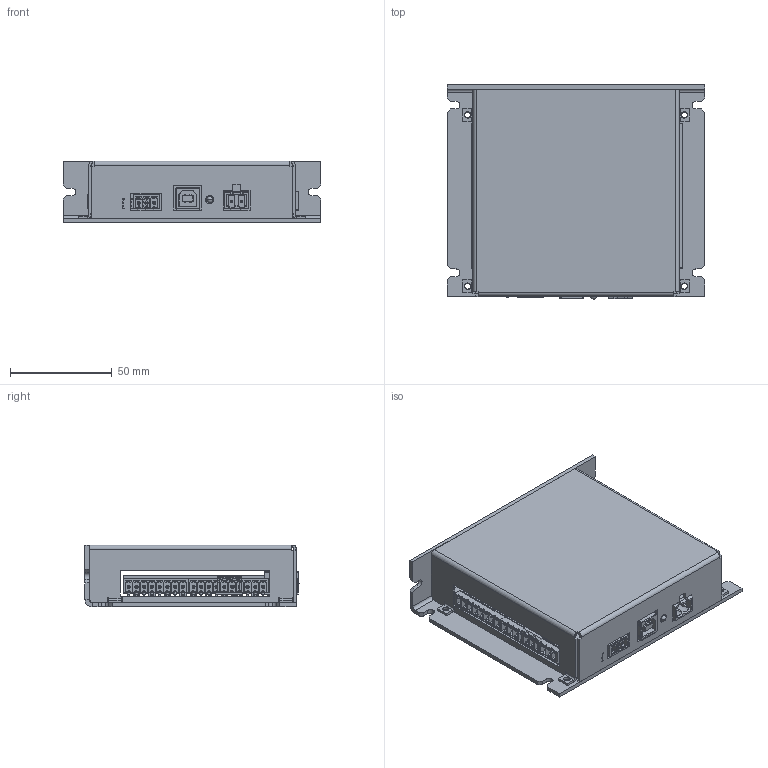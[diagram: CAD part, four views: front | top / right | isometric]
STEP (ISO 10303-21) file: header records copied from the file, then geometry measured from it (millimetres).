
FILE_DESCRIPTION (( 'STEP AP214' ), '1' );
FILE_NAME ('PMX-2ED-SA-external.STEP', '2011-08-01T17:03:06', ( '' ), ( '' ), 'SwSTEP 2.0', 'SolidWorks 2011', '' );
FILE_SCHEMA (( 'AUTOMOTIVE_DESIGN' ));
Length unit declared in the file: inch
Products named in the file (12): PCB-2ED-SA-ASSY(1); SBH11-PBPC-D25-RA-BK; mc_1_5-3-g-3_81; mstba_2.5-2-g; SW3dPS-b10b-phdss; mc_1_5-10-g-3_81; mc_1_5-8-g-3_81; SW3dPS-67068-0000-molex; SW3dPS-65-187, LED1x1,Y; PMX-BASE; PMX-2ED-SA-COVER; PMX-2ED-SA-external
Assembly tree (14 placements, depth 3):
  PMX-2ED-SA-external
    PCB-2ED-SA-ASSY(1)
      mstba_2.5-2-g  x2
      mc_1_5-3-g-3_81
      SW3dPS-65-187, LED1x1,Y
      SW3dPS-67068-0000-molex
      mc_1_5-10-g-3_81  x2
      SBH11-PBPC-D25-RA-BK
      mc_1_5-8-g-3_81  x2
      SW3dPS-b10b-phdss
    PMX-BASE
    PMX-2ED-SA-COVER
Bounding box: 127 x 105.41 x 30.48 mm (x, y, z)
Volume: 64108.1 mm3; surface area: 92011.9 mm2
Topology: 11 solids, 17 shells, 4339 faces, 10839 edges, 6967 vertices
Faces by surface type: plane 3603, cylinder 640, bspline 51, cone 43, sphere 2
Entity records: 110882 total; most frequent: CARTESIAN_POINT 16223, ORIENTED_EDGE 14452, DIRECTION 13769, EDGE_CURVE 7238, VECTOR 6263, LINE 6263, VERTEX_POINT 4689, AXIS2_PLACEMENT_3D 3753
